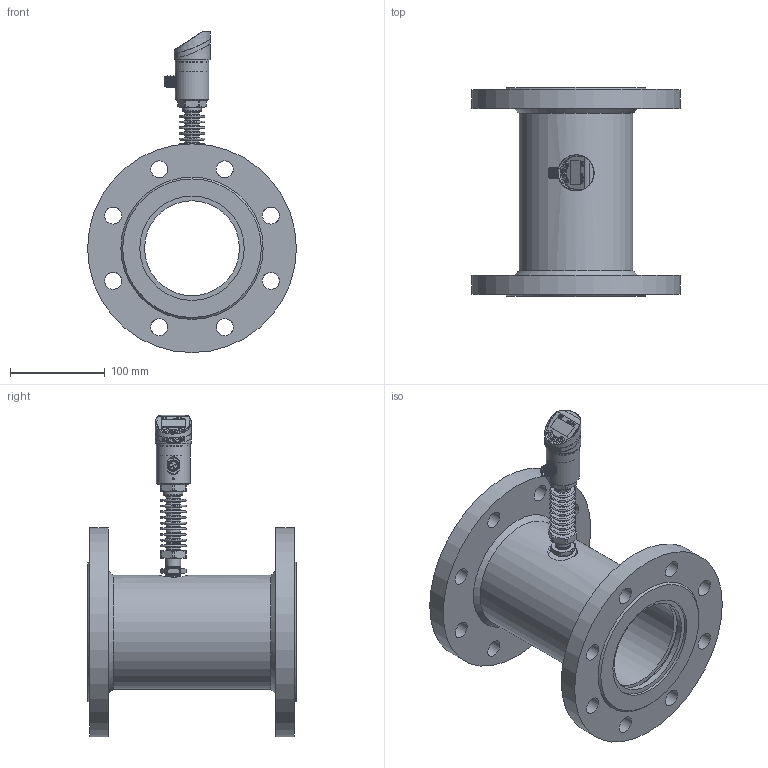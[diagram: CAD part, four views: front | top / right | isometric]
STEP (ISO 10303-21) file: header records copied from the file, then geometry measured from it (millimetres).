
FILE_DESCRIPTION( (''), '2;1');
FILE_NAME( 'QTKE_DN100_flange_high-temp.step', '2024-10-14T15:56:27+08:00', (''), (''), '', '', '');
FILE_SCHEMA (('AUTOMOTIVE_DESIGN { 1 0 10303 214 3 1 1 1 }'));
Length unit declared in the file: millimetre
Products named in the file (1): QTKE DN100_flange_high-temp
Bounding box: 220 x 220 x 338.5 mm (x, y, z)
Volume: 1794662.7 mm3; surface area: 336756.9 mm2
Topology: 5 solids, 5 shells, 1005 faces, 2579 edges, 1682 vertices
Faces by surface type: plane 407, cylinder 188, extrusion 160, cone 110, torus 60, bspline 59, sphere 21
Full cylindrical faces by diameter (mm): 1.689 x1, 2 x1, 2.7 x6, 3.5 x5, 12 x1, 13 x1, 15 x10, 15.9 x1, 16.5 x1, 18 x16, 20 x1, 23 x3, 26 x5, 31.7 x1, 32 x1, 34 x1, 34.2 x1, 35.5 x2, 100 x3, 110 x4, 120 x1, 220 x2
Entity records: 43549 total; most frequent: CARTESIAN_POINT 16447, ORIENTED_EDGE 4694, DIRECTION 4172, EDGE_CURVE 2347, VERTEX_POINT 1607, AXIS2_PLACEMENT_3D 1506, EDGE_LOOP 1302, VECTOR 1160
